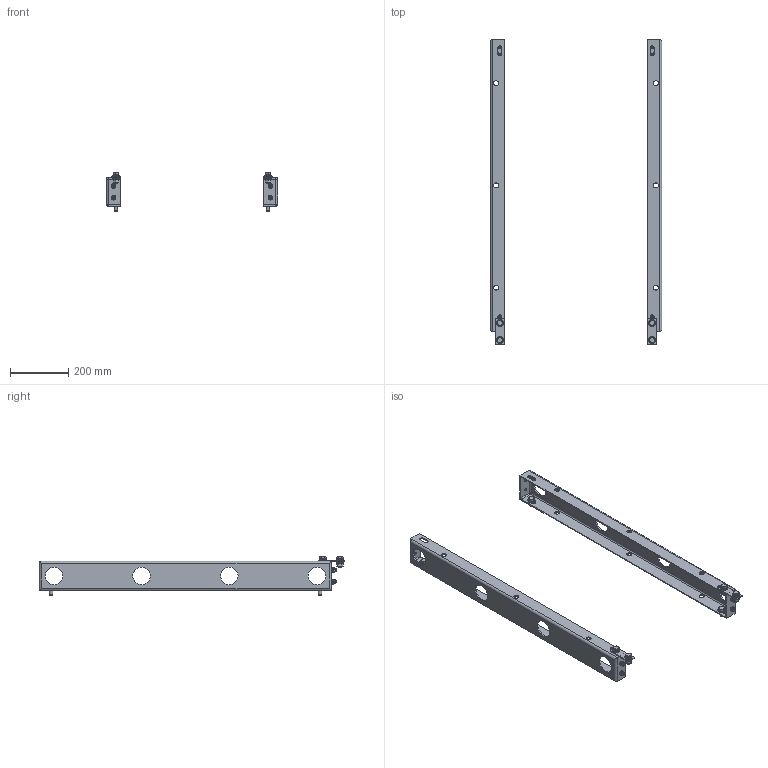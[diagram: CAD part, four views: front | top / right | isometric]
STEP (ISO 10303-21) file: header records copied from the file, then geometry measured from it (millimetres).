
FILE_DESCRIPTION(('STEP AP203'), '1');
FILE_NAME('3960 Êîìïëåêò äëÿ òðàíñïîðòèðîâêè', '', ('UNSPECIFIED'), ('UNSPECIFIED'), 'C3D Converter', 'C3D Toolkit', '');
FILE_SCHEMA(('CONFIG_CONTROL_DESIGN'));
Length unit declared in the file: millimetre
Products named in the file (12): 3960 СБ; 3961; 3962
Assembly tree (56 placements, depth 2):
  3960 СБ
    3961  x2
    3962  x2
    (unnamed)  x12
    (unnamed)  x8
    (unnamed)  x4
    (unnamed)  x4
    (unnamed)  x4
    (unnamed)  x8
    (unnamed)  x4
    (unnamed)  x4
    (unnamed)  x4
Bounding box: 587 x 1045 x 131.5 mm (x, y, z)
Volume: 1534869.7 mm3; surface area: 810188.4 mm2
Topology: 56 solids, 56 shells, 550 faces, 1280 edges, 868 vertices
Faces by surface type: plane 310, cylinder 164, cone 56, torus 12, sphere 8
Full cylindrical faces by diameter (mm): 6.647 x4, 8 x4, 9 x8, 10 x8, 10.106 x4, 12 x8, 13.5 x12, 14 x4, 16 x8, 17 x12, 24 x12, 60 x8
Entity records: 10277 total; most frequent: CARTESIAN_POINT 4873, DIRECTION 832, ORIENTED_EDGE 618, AXIS2_PLACEMENT_3D 346, EDGE_CURVE 309, EDGE_LOOP 248, VERTEX_POINT 223, FACE_BOUND 171
